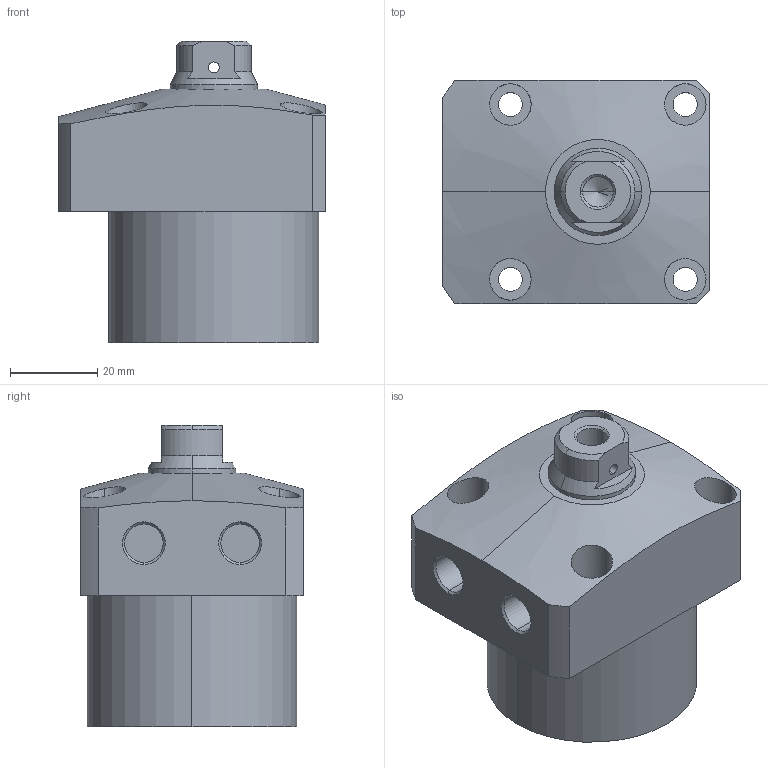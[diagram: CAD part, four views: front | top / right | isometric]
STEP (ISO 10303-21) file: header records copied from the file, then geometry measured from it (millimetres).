
FILE_DESCRIPTION (( 'STEP AP203' ), '1' );
FILE_NAME ('CLL-0480-CB-20.STEP', '2017-05-09T03:05:15', ( '' ), ( '' ), 'SwSTEP 2.0', 'SolidWorks 2015', '' );
FILE_SCHEMA (( 'CONFIG_CONTROL_DESIGN' ));
Length unit declared in the file: millimetre
Products named in the file (1): CLL-0480-CB-20
Bounding box: 61 x 51 x 69 mm (x, y, z)
Volume: 128856.6 mm3; surface area: 19125.7 mm2
Topology: 1 solids, 1 shells, 76 faces, 181 edges, 116 vertices
Faces by surface type: cylinder 39, plane 22, cone 15
Entity records: 2695 total; most frequent: CARTESIAN_POINT 818, DIRECTION 386, ORIENTED_EDGE 358, EDGE_CURVE 179, AXIS2_PLACEMENT_3D 158, VERTEX_POINT 116, EDGE_LOOP 99, CIRCLE 81
